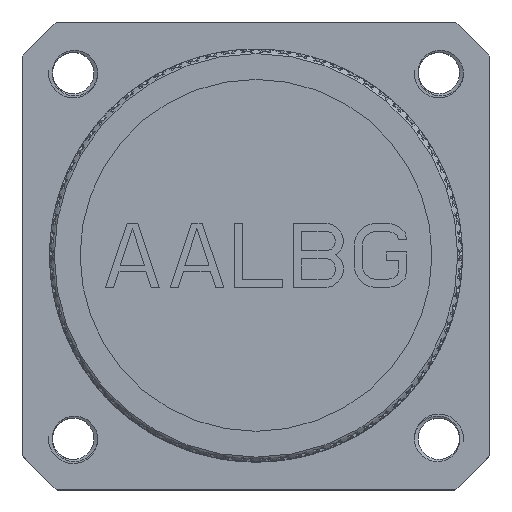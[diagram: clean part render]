
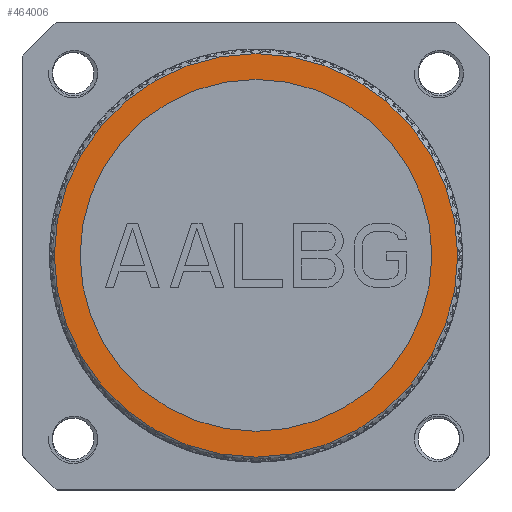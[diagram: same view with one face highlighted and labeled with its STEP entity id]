
A CAD part, top view. The second image highlights one B-rep face of the part: STEP entity #464006.
In plain terms, the highlighted planar face has unit normal (0, 0, 1).
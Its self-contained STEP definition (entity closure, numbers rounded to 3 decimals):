
#134649=CARTESIAN_POINT('',(0.,0.,41.15));
#134650=DIRECTION('',(0.,0.,1.));
#134651=DIRECTION('',(-1.,0.,0.));
#134652=AXIS2_PLACEMENT_3D('',#134649,#134650,#134651);
#134654=CARTESIAN_POINT('',(0.,0.,41.15));
#134655=DIRECTION('',(0.,0.,-1.));
#134656=DIRECTION('',(-1.,0.,0.));
#134657=AXIS2_PLACEMENT_3D('',#134654,#134655,#134656);
#134659=CARTESIAN_POINT('',(0.,0.,41.15));
#134660=DIRECTION('',(0.,0.,-1.));
#134661=DIRECTION('',(1.,0.,0.));
#134662=AXIS2_PLACEMENT_3D('',#134659,#134660,#134661);
#134664=CARTESIAN_POINT('',(0.,0.,41.15));
#134665=DIRECTION('',(0.,0.,-1.));
#134666=DIRECTION('',(-1.,0.,0.));
#134667=AXIS2_PLACEMENT_3D('',#134664,#134665,#134666);
#150501=CARTESIAN_POINT('',(19.1,0.,41.15));
#150502=CARTESIAN_POINT('',(-19.1,0.,41.15));
#150503=VERTEX_POINT('',#150501);
#150504=VERTEX_POINT('',#150502);
#150533=CARTESIAN_POINT('',(-21.9,0.,41.15));
#150534=CARTESIAN_POINT('',(21.9,0.,41.15));
#150535=VERTEX_POINT('',#150533);
#150536=VERTEX_POINT('',#150534);
#463991=CARTESIAN_POINT('',(0.,0.,41.15));
#463992=DIRECTION('',(0.,0.,1.));
#463993=DIRECTION('',(-1.,0.,0.));
#463994=AXIS2_PLACEMENT_3D('',#463991,#463992,#463993);
#463995=PLANE('246',#463994);
#463996=ORIENTED_EDGE('12333',*,*,#441337,.F.);
#463997=ORIENTED_EDGE('12336',*,*,#440557,.T.);
#463998=EDGE_LOOP('246',(#463996,#463997));
#463999=FACE_OUTER_BOUND('246',#463998,.F.);
#464001=ORIENTED_EDGE('12280',*,*,#464000,.F.);
#464003=ORIENTED_EDGE('12281',*,*,#464002,.F.);
#464004=EDGE_LOOP('246',(#464001,#464003));
#464005=FACE_BOUND('246',#464004,.F.);
#134653=CIRCLE('12333',#134652,21.9);
#134658=CIRCLE('12336',#134657,21.9);
#134663=CIRCLE('12280',#134662,19.1);
#134668=CIRCLE('12281',#134667,19.1);
#440557=EDGE_CURVE('12336',#150535,#150536,#134658,.T.);
#441337=EDGE_CURVE('12333',#150535,#150536,#134653,.T.);
#464000=EDGE_CURVE('12280',#150503,#150504,#134663,.T.);
#464002=EDGE_CURVE('12281',#150504,#150503,#134668,.T.);
#464006=ADVANCED_FACE('246',(#463999,#464005),#463995,.T.);
